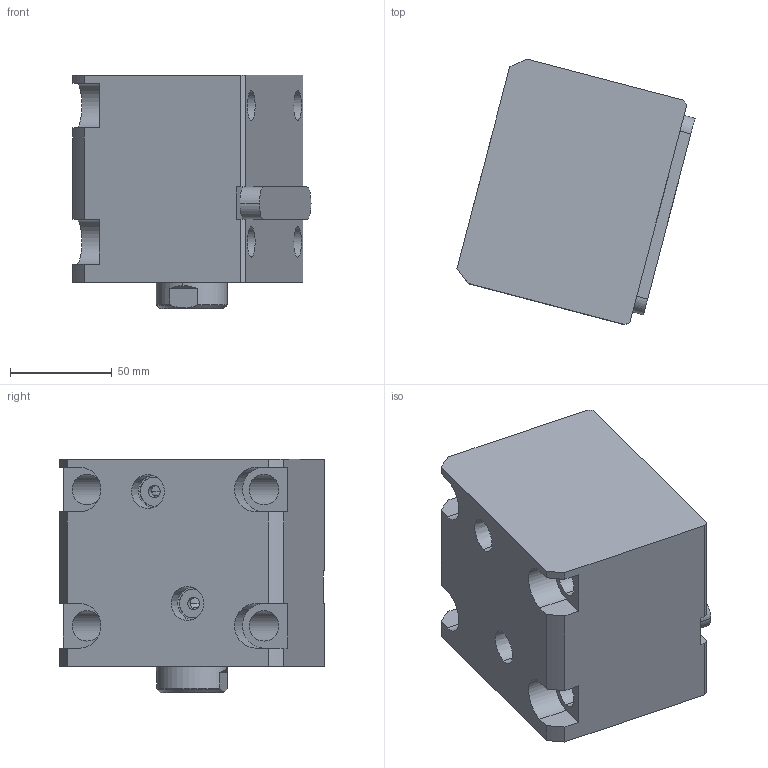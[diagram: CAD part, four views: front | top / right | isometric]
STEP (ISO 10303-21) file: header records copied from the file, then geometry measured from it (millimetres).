
FILE_DESCRIPTION (( 'STEP AP214' ), '1' );
FILE_NAME ('chtb-la63x35n_asm.STEP', '2018-05-02T03:46:10', ( 'Windows' ), ( 'Microsoft' ), 'SwSTEP 2.0', 'SolidWorks 2015', '' );
FILE_SCHEMA (( 'AUTOMOTIVE_DESIGN' ));
Length unit declared in the file: millimetre
Products named in the file (5): CHTB63X35NHSG; CHTB-63QG; chtb-la63x35n_asm; CHTB-LA63PJ; CHTB-LA63X35NBT
Assembly tree (4 placements, depth 2):
  chtb-la63x35n_asm
    CHTB-63QG
    CHTB63X35NHSG
    CHTB-LA63PJ
    CHTB-LA63X35NBT
Bounding box: 117.06 x 130.44 x 115 mm (x, y, z)
Volume: 882594.7 mm3; surface area: 141620.5 mm2
Topology: 4 solids, 4 shells, 174 faces, 510 edges, 348 vertices
Faces by surface type: cylinder 98, plane 45, bspline 12, cone 12, torus 7
Entity records: 18199 total; most frequent: CARTESIAN_POINT 13678, ORIENTED_EDGE 1008, DIRECTION 778, EDGE_CURVE 504, VERTEX_POINT 348, AXIS2_PLACEMENT_3D 295, EDGE_LOOP 198, VECTOR 188
